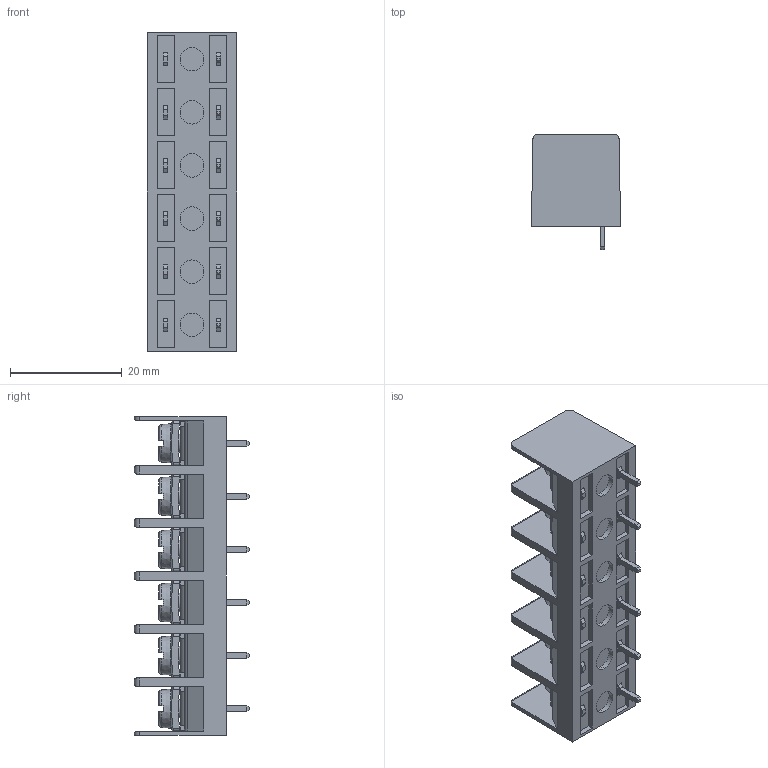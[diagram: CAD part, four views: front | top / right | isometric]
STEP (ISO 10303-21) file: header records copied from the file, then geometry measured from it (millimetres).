
FILE_DESCRIPTION (( 'STEP AP214' ), '1' );
FILE_NAME ('982-S-06.STEP', '2007-12-14T14:18:09', ( 'weco' ), ( 'weco' ), 'SwSTEP 2.0', 'SolidWorks 2007', '' );
FILE_SCHEMA (( 'AUTOMOTIVE_DESIGN' ));
Length unit declared in the file: millimetre
Products named in the file (1): 982-S-06
Bounding box: 16 x 20.7 x 57.1 mm (x, y, z)
Volume: 8613 mm3; surface area: 7141.5 mm2
Topology: 1 solids, 1 shells, 590 faces, 1602 edges, 1050 vertices
Faces by surface type: plane 402, cylinder 122, bspline 54, cone 12
Entity records: 20965 total; most frequent: CARTESIAN_POINT 6619, ORIENTED_EDGE 3204, DIRECTION 2620, EDGE_CURVE 1602, VECTOR 1082, LINE 1082, VERTEX_POINT 1050, AXIS2_PLACEMENT_3D 769
